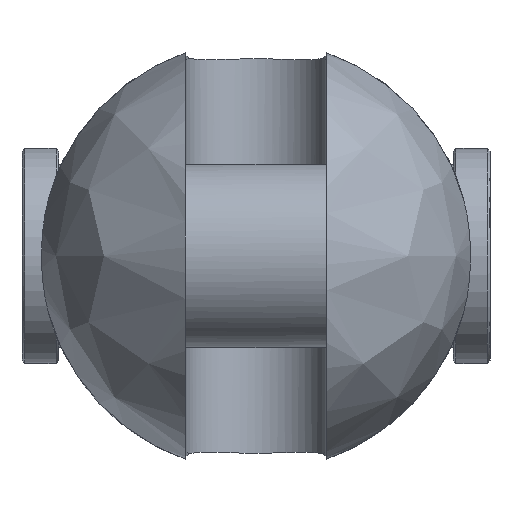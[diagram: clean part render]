
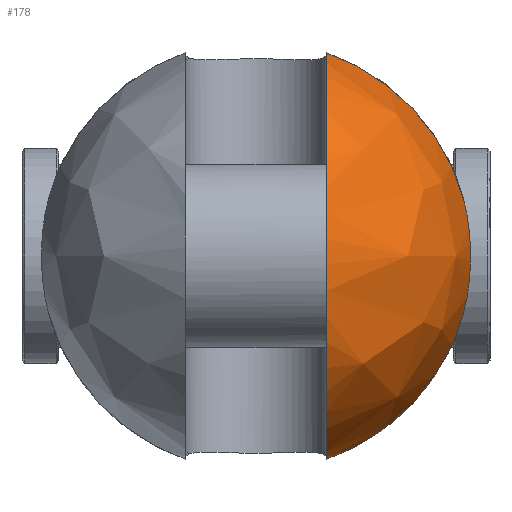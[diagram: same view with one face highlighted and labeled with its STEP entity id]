
A CAD part, left-side view. The second image highlights one B-rep face of the part: STEP entity #178.
In plain terms, the highlighted free-form (B-spline) face has degree [2, 2] with [9, 5] control points.
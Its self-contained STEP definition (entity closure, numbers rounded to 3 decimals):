
#178=ADVANCED_FACE('',(#318),#2409,.T.);
#318=FACE_OUTER_BOUND('',#478,.T.);
#478=EDGE_LOOP('',(#1189,#1190,#1191,#1192));
#1189=ORIENTED_EDGE('',*,*,#1569,.T.);
#1190=ORIENTED_EDGE('',*,*,#1597,.F.);
#1191=ORIENTED_EDGE('',*,*,#1609,.T.);
#1192=ORIENTED_EDGE('',*,*,#1589,.F.);
#1569=EDGE_CURVE('',#2242,#2241,#1976,.T.);
#1589=EDGE_CURVE('',#2242,#2254,#1986,.T.);
#1597=EDGE_CURVE('',#2261,#2241,#1987,.T.);
#1609=EDGE_CURVE('',#2261,#2254,#1782,.T.);
#1782=B_SPLINE_CURVE_WITH_KNOTS('',3,(#6063,#6064,#6065,#6066,#6067,#6068,
#6069,#6070,#6071,#6072,#6073,#6074,#6075,#6076),.UNSPECIFIED.,.F.,.F.,
(4,2,2,2,2,2,4),(0.,1.763,6.696,11.629,16.562,
21.494,23.258),.UNSPECIFIED.);
#1976=(
BOUNDED_CURVE()
B_SPLINE_CURVE(2,(#5839,#5840,#5841,#5842,#5843),.UNSPECIFIED.,.F.,.F.)
B_SPLINE_CURVE_WITH_KNOTS((3,2,3),(-121.623,-60.811,0.),
 .UNSPECIFIED.)
CURVE()
GEOMETRIC_REPRESENTATION_ITEM()
RATIONAL_B_SPLINE_CURVE((1.,0.707,1.,0.707,1.))
REPRESENTATION_ITEM('')
);
#1986=(
BOUNDED_CURVE()
B_SPLINE_CURVE(2,(#5933,#5934,#5935),.UNSPECIFIED.,.F.,.F.)
B_SPLINE_CURVE_WITH_KNOTS((3,3),(0.,39.557),.UNSPECIFIED.)
CURVE()
GEOMETRIC_REPRESENTATION_ITEM()
RATIONAL_B_SPLINE_CURVE((1.,0.886,1.))
REPRESENTATION_ITEM('')
);
#1987=(
BOUNDED_CURVE()
B_SPLINE_CURVE(2,(#5990,#5991,#5992),.UNSPECIFIED.,.F.,.F.)
B_SPLINE_CURVE_WITH_KNOTS((3,3),(0.,39.557),.UNSPECIFIED.)
CURVE()
GEOMETRIC_REPRESENTATION_ITEM()
RATIONAL_B_SPLINE_CURVE((1.,0.886,1.))
REPRESENTATION_ITEM('')
);
#2241=VERTEX_POINT('',#5723);
#2242=VERTEX_POINT('',#5724);
#2254=VERTEX_POINT('',#5736);
#2261=VERTEX_POINT('',#5743);
#2409=(
BOUNDED_SURFACE()
B_SPLINE_SURFACE(2,2,((#5437,#5438,#5439,#5440,#5441),(#5442,#5443,#5444,
#5445,#5446),(#5447,#5448,#5449,#5450,#5451),(#5452,#5453,#5454,#5455,#5456),
(#5457,#5458,#5459,#5460,#5461),(#5462,#5463,#5464,#5465,#5466),(#5467,
#5468,#5469,#5470,#5471),(#5472,#5473,#5474,#5475,#5476),(#5477,#5478,#5479,
#5480,#5481)),.UNSPECIFIED.,.T.,.F.,.F.)
B_SPLINE_SURFACE_WITH_KNOTS((3,2,2,2,3),(3,2,3),(0.,64.403,128.805,
193.208,257.611),(0.,64.403,128.805),
 .UNSPECIFIED.)
GEOMETRIC_REPRESENTATION_ITEM()
RATIONAL_B_SPLINE_SURFACE(((1.,0.707,1.,0.707,1.),
(0.707,0.5,0.707,0.5,0.707),(1.,0.707,
1.,0.707,1.),(0.707,0.5,0.707,0.5,0.707),
(1.,0.707,1.,0.707,1.),(0.707,0.5,0.707,
0.5,0.707),(1.,0.707,1.,0.707,1.),(0.707,
0.5,0.707,0.5,0.707),(1.,0.707,1.,0.707,
1.)))
REPRESENTATION_ITEM('')
SURFACE()
);
#5437=CARTESIAN_POINT('',(-59.5,0.,0.));
#5438=CARTESIAN_POINT('',(-59.5,41.,0.));
#5439=CARTESIAN_POINT('',(-18.5,41.,0.));
#5440=CARTESIAN_POINT('',(22.5,41.,0.));
#5441=CARTESIAN_POINT('',(22.5,0.,0.));
#5442=CARTESIAN_POINT('',(-59.5,0.,0.));
#5443=CARTESIAN_POINT('',(-59.5,41.,41.));
#5444=CARTESIAN_POINT('',(-18.5,41.,41.));
#5445=CARTESIAN_POINT('',(22.5,41.,41.));
#5446=CARTESIAN_POINT('',(22.5,0.,0.));
#5447=CARTESIAN_POINT('',(-59.5,0.,0.));
#5448=CARTESIAN_POINT('',(-59.5,0.,41.));
#5449=CARTESIAN_POINT('',(-18.5,0.,41.));
#5450=CARTESIAN_POINT('',(22.5,0.,41.));
#5451=CARTESIAN_POINT('',(22.5,0.,0.));
#5452=CARTESIAN_POINT('',(-59.5,0.,0.));
#5453=CARTESIAN_POINT('',(-59.5,-41.,41.));
#5454=CARTESIAN_POINT('',(-18.5,-41.,41.));
#5455=CARTESIAN_POINT('',(22.5,-41.,41.));
#5456=CARTESIAN_POINT('',(22.5,0.,0.));
#5457=CARTESIAN_POINT('',(-59.5,0.,0.));
#5458=CARTESIAN_POINT('',(-59.5,-41.,0.));
#5459=CARTESIAN_POINT('',(-18.5,-41.,0.));
#5460=CARTESIAN_POINT('',(22.5,-41.,0.));
#5461=CARTESIAN_POINT('',(22.5,0.,0.));
#5462=CARTESIAN_POINT('',(-59.5,0.,0.));
#5463=CARTESIAN_POINT('',(-59.5,-41.,-41.));
#5464=CARTESIAN_POINT('',(-18.5,-41.,-41.));
#5465=CARTESIAN_POINT('',(22.5,-41.,-41.));
#5466=CARTESIAN_POINT('',(22.5,0.,0.));
#5467=CARTESIAN_POINT('',(-59.5,0.,0.));
#5468=CARTESIAN_POINT('',(-59.5,0.,-41.));
#5469=CARTESIAN_POINT('',(-18.5,0.,-41.));
#5470=CARTESIAN_POINT('',(22.5,0.,-41.));
#5471=CARTESIAN_POINT('',(22.5,0.,0.));
#5472=CARTESIAN_POINT('',(-59.5,0.,0.));
#5473=CARTESIAN_POINT('',(-59.5,41.,-41.));
#5474=CARTESIAN_POINT('',(-18.5,41.,-41.));
#5475=CARTESIAN_POINT('',(22.5,41.,-41.));
#5476=CARTESIAN_POINT('',(22.5,0.,0.));
#5477=CARTESIAN_POINT('',(-59.5,0.,0.));
#5478=CARTESIAN_POINT('',(-59.5,41.,0.));
#5479=CARTESIAN_POINT('',(-18.5,41.,0.));
#5480=CARTESIAN_POINT('',(22.5,41.,0.));
#5481=CARTESIAN_POINT('',(22.5,0.,0.));
#5723=CARTESIAN_POINT('',(-18.5,-13.5,-38.714));
#5724=CARTESIAN_POINT('',(-18.5,-13.5,38.714));
#5736=CARTESIAN_POINT('',(-18.5,-39.509,10.954));
#5743=CARTESIAN_POINT('',(-18.5,-39.509,-10.954));
#5839=CARTESIAN_POINT('',(-18.5,-13.5,38.714));
#5840=CARTESIAN_POINT('',(-57.214,-13.5,38.714));
#5841=CARTESIAN_POINT('',(-57.214,-13.5,0.));
#5842=CARTESIAN_POINT('',(-57.214,-13.5,-38.714));
#5843=CARTESIAN_POINT('',(-18.5,-13.5,-38.714));
#5933=CARTESIAN_POINT('',(-18.5,-13.5,38.714));
#5934=CARTESIAN_POINT('',(-18.5,-33.773,31.644));
#5935=CARTESIAN_POINT('',(-18.5,-39.509,10.954));
#5990=CARTESIAN_POINT('',(-18.5,-39.509,-10.954));
#5991=CARTESIAN_POINT('',(-18.5,-33.773,-31.644));
#5992=CARTESIAN_POINT('',(-18.5,-13.5,-38.714));
#6063=CARTESIAN_POINT('',(-18.5,-39.509,-10.954));
#6064=CARTESIAN_POINT('',(-18.795,-39.647,-10.457));
#6065=CARTESIAN_POINT('',(-19.07,-39.776,-9.945));
#6066=CARTESIAN_POINT('',(-20.039,-40.225,-7.959));
#6067=CARTESIAN_POINT('',(-20.59,-40.477,-6.4));
#6068=CARTESIAN_POINT('',(-21.321,-40.809,-3.216));
#6069=CARTESIAN_POINT('',(-21.5,-40.89,-1.59));
#6070=CARTESIAN_POINT('',(-21.5,-40.89,1.59));
#6071=CARTESIAN_POINT('',(-21.321,-40.809,3.216));
#6072=CARTESIAN_POINT('',(-20.59,-40.477,6.4));
#6073=CARTESIAN_POINT('',(-20.039,-40.225,7.959));
#6074=CARTESIAN_POINT('',(-19.07,-39.776,9.945));
#6075=CARTESIAN_POINT('',(-18.795,-39.647,10.457));
#6076=CARTESIAN_POINT('',(-18.5,-39.509,10.954));
